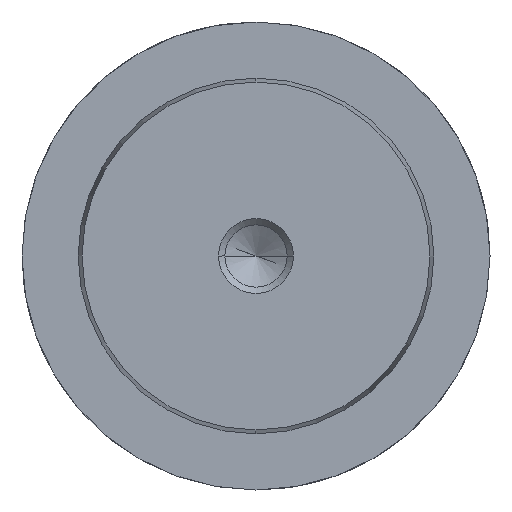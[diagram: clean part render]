
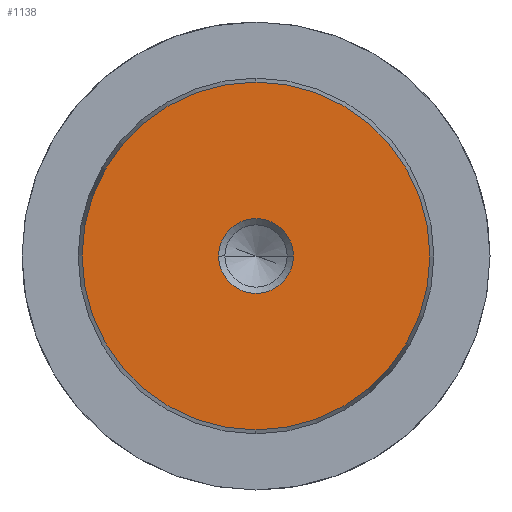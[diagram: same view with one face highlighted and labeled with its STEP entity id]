
A CAD part, left-side view. The second image highlights one B-rep face of the part: STEP entity #1138.
In plain terms, the highlighted planar face has unit normal (-1, 0, 0).
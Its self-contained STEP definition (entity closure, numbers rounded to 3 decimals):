
#1052=CARTESIAN_POINT('Vertex',(0.,0.,-18.578)) ;
#1055=CARTESIAN_POINT('Axis2P3D Location',(0.,0.,0.)) ;
#1059=CARTESIAN_POINT('Vertex',(0.,18.578,0.)) ;
#1062=CARTESIAN_POINT('Axis2P3D Location',(0.,0.,0.)) ;
#1066=CARTESIAN_POINT('Vertex',(0.,0.,18.578)) ;
#1088=CARTESIAN_POINT('Axis2P3D Location',(0.,0.,0.)) ;
#1092=CARTESIAN_POINT('Vertex',(0.,-18.578,0.)) ;
#1095=CARTESIAN_POINT('Axis2P3D Location',(0.,0.,0.)) ;
#1109=CARTESIAN_POINT('Axis2P3D Location',(0.,0.,0.)) ;
#1120=CARTESIAN_POINT('Axis2P3D Location',(0.,0.,0.)) ;
#1124=CARTESIAN_POINT('Vertex',(0.,4.,0.)) ;
#1126=CARTESIAN_POINT('Vertex',(0.,-4.,0.)) ;
#1129=CARTESIAN_POINT('Axis2P3D Location',(0.,0.,0.)) ;
#1056=DIRECTION('Axis2P3D Direction',(1.,-0.,0.)) ;
#1063=DIRECTION('Axis2P3D Direction',(1.,-0.,0.)) ;
#1089=DIRECTION('Axis2P3D Direction',(1.,0.,-0.)) ;
#1096=DIRECTION('Axis2P3D Direction',(1.,0.,-0.)) ;
#1110=DIRECTION('Axis2P3D Direction',(1.,0.,-0.)) ;
#1111=DIRECTION('Axis2P3D XDirection',(-0.,0.,-1.)) ;
#1121=DIRECTION('Axis2P3D Direction',(1.,0.,-0.)) ;
#1130=DIRECTION('Axis2P3D Direction',(1.,0.,-0.)) ;
#1057=AXIS2_PLACEMENT_3D('Circle Axis2P3D',#1055,#1056,$) ;
#1064=AXIS2_PLACEMENT_3D('Circle Axis2P3D',#1062,#1063,$) ;
#1090=AXIS2_PLACEMENT_3D('Circle Axis2P3D',#1088,#1089,$) ;
#1097=AXIS2_PLACEMENT_3D('Circle Axis2P3D',#1095,#1096,$) ;
#1112=AXIS2_PLACEMENT_3D('Plane Axis2P3D',#1109,#1110,#1111) ;
#1122=AXIS2_PLACEMENT_3D('Circle Axis2P3D',#1120,#1121,$) ;
#1131=AXIS2_PLACEMENT_3D('Circle Axis2P3D',#1129,#1130,$) ;
#1115=ORIENTED_EDGE('',*,*,#1061,.F.) ;
#1116=ORIENTED_EDGE('',*,*,#1099,.F.) ;
#1117=ORIENTED_EDGE('',*,*,#1094,.F.) ;
#1118=ORIENTED_EDGE('',*,*,#1068,.F.) ;
#1135=ORIENTED_EDGE('',*,*,#1128,.T.) ;
#1136=ORIENTED_EDGE('',*,*,#1133,.T.) ;
#1137=FACE_BOUND('',#1134,.T.) ;
#1138=ADVANCED_FACE('719-38x224',(#1119,#1137),#1113,.F.) ;
#1058=CIRCLE('generated circle',#1057,18.578) ;
#1065=CIRCLE('generated circle',#1064,18.578) ;
#1091=CIRCLE('generated circle',#1090,18.578) ;
#1098=CIRCLE('generated circle',#1097,18.578) ;
#1123=CIRCLE('generated circle',#1122,4.) ;
#1132=CIRCLE('generated circle',#1131,4.) ;
#1061=EDGE_CURVE('',#1053,#1060,#1058,.T.) ;
#1068=EDGE_CURVE('',#1060,#1067,#1065,.T.) ;
#1094=EDGE_CURVE('',#1067,#1093,#1091,.T.) ;
#1099=EDGE_CURVE('',#1093,#1053,#1098,.T.) ;
#1128=EDGE_CURVE('',#1125,#1127,#1123,.T.) ;
#1133=EDGE_CURVE('',#1127,#1125,#1132,.T.) ;
#1114=EDGE_LOOP('',(#1115,#1116,#1117,#1118)) ;
#1134=EDGE_LOOP('',(#1135,#1136)) ;
#1119=FACE_OUTER_BOUND('',#1114,.T.) ;
#1113=PLANE('Plane',#1112) ;
#1053=VERTEX_POINT('',#1052) ;
#1060=VERTEX_POINT('',#1059) ;
#1067=VERTEX_POINT('',#1066) ;
#1093=VERTEX_POINT('',#1092) ;
#1125=VERTEX_POINT('',#1124) ;
#1127=VERTEX_POINT('',#1126) ;
